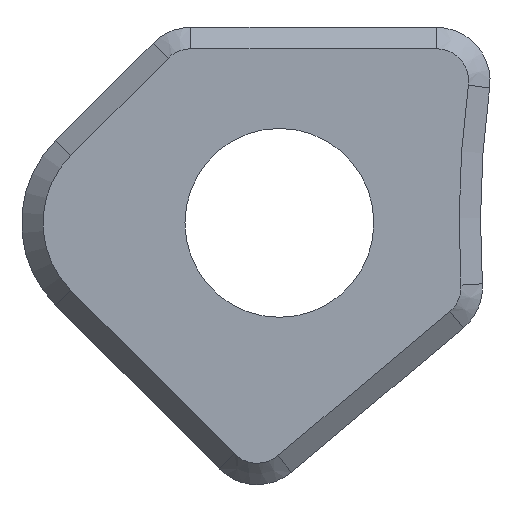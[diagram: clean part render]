
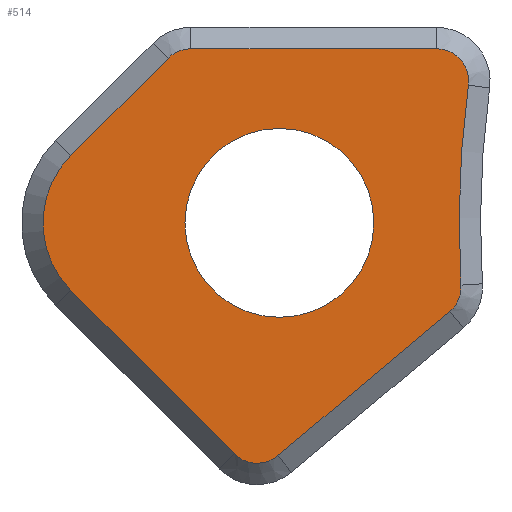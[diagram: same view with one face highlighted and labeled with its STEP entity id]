
A CAD part, front view. The second image highlights one B-rep face of the part: STEP entity #514.
In plain terms, the highlighted planar face has unit normal (0, -1, 0).
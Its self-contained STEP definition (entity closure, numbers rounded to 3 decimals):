
#15=FACE_BOUND('',#87,.T.);
#30=PLANE('',#564);
#53=FACE_OUTER_BOUND('',#86,.T.);
#86=EDGE_LOOP('',(#401,#402,#403,#404,#405,#406,#407,#408,#409,#410));
#87=EDGE_LOOP('',(#411));
#107=CIRCLE('',#536,0.6);
#108=CIRCLE('',#539,0.6);
#110=CIRCLE('',#542,19.267);
#112=CIRCLE('',#545,0.6);
#115=CIRCLE('',#550,0.6);
#117=CIRCLE('',#554,1.783);
#121=CIRCLE('',#565,1.767);
#134=LINE('',#772,#181);
#140=LINE('',#796,#187);
#144=LINE('',#808,#191);
#149=LINE('',#820,#196);
#181=VECTOR('',#605,10.);
#187=VECTOR('',#631,10.);
#191=VECTOR('',#643,10.);
#196=VECTOR('',#656,10.);
#226=VERTEX_POINT('',#762);
#229=VERTEX_POINT('',#767);
#230=VERTEX_POINT('',#771);
#232=VERTEX_POINT('',#777);
#234=VERTEX_POINT('',#783);
#236=VERTEX_POINT('',#789);
#238=VERTEX_POINT('',#795);
#240=VERTEX_POINT('',#801);
#242=VERTEX_POINT('',#807);
#244=VERTEX_POINT('',#813);
#252=VERTEX_POINT('',#844);
#271=EDGE_CURVE('',#229,#226,#107,.T.);
#272=EDGE_CURVE('',#226,#230,#134,.T.);
#275=EDGE_CURVE('',#230,#232,#108,.T.);
#278=EDGE_CURVE('',#232,#234,#110,.T.);
#281=EDGE_CURVE('',#234,#236,#112,.T.);
#284=EDGE_CURVE('',#236,#238,#140,.T.);
#289=EDGE_CURVE('',#238,#240,#115,.T.);
#290=EDGE_CURVE('',#240,#242,#144,.T.);
#295=EDGE_CURVE('',#242,#244,#117,.T.);
#297=EDGE_CURVE('',#244,#229,#149,.T.);
#309=EDGE_CURVE('',#252,#252,#121,.T.);
#401=ORIENTED_EDGE('',*,*,#271,.F.);
#402=ORIENTED_EDGE('',*,*,#297,.F.);
#403=ORIENTED_EDGE('',*,*,#295,.F.);
#404=ORIENTED_EDGE('',*,*,#290,.F.);
#405=ORIENTED_EDGE('',*,*,#289,.F.);
#406=ORIENTED_EDGE('',*,*,#284,.F.);
#407=ORIENTED_EDGE('',*,*,#281,.F.);
#408=ORIENTED_EDGE('',*,*,#278,.F.);
#409=ORIENTED_EDGE('',*,*,#275,.F.);
#410=ORIENTED_EDGE('',*,*,#272,.F.);
#411=ORIENTED_EDGE('',*,*,#309,.T.);
#514=ADVANCED_FACE('',(#53,#15),#30,.F.);
#536=AXIS2_PLACEMENT_3D('',#769,#601,#602);
#539=AXIS2_PLACEMENT_3D('',#778,#610,#611);
#542=AXIS2_PLACEMENT_3D('',#784,#617,#618);
#545=AXIS2_PLACEMENT_3D('',#790,#624,#625);
#550=AXIS2_PLACEMENT_3D('',#805,#639,#640);
#554=AXIS2_PLACEMENT_3D('',#817,#651,#652);
#564=AXIS2_PLACEMENT_3D('',#843,#681,#682);
#565=AXIS2_PLACEMENT_3D('',#845,#683,#684);
#601=DIRECTION('center_axis',(0.,1.,0.));
#602=DIRECTION('ref_axis',(-0.383,0.,0.924));
#605=DIRECTION('',(1.,0.,0.));
#610=DIRECTION('center_axis',(0.,1.,0.));
#611=DIRECTION('ref_axis',(0.753,0.,0.658));
#617=DIRECTION('center_axis',(0.,-1.,0.));
#618=DIRECTION('ref_axis',(-1.,0.,0.));
#624=DIRECTION('center_axis',(0.,1.,0.));
#625=DIRECTION('ref_axis',(0.919,0.,-0.395));
#631=DIRECTION('',(-0.766,0.,-0.643));
#639=DIRECTION('center_axis',(0.,1.,0.));
#640=DIRECTION('ref_axis',(-0.044,0.,-0.999));
#643=DIRECTION('',(-0.707,0.,0.707));
#651=DIRECTION('center_axis',(0.,1.,0.));
#652=DIRECTION('ref_axis',(-0.707,0.,-0.707));
#656=DIRECTION('',(0.707,0.,0.707));
#681=DIRECTION('center_axis',(0.,1.,0.));
#682=DIRECTION('ref_axis',(-1.,0.,0.));
#683=DIRECTION('center_axis',(0.,1.,0.));
#684=DIRECTION('ref_axis',(-1.,0.,0.));
#762=CARTESIAN_POINT('',(7.041,62.406,21.186));
#767=CARTESIAN_POINT('',(6.617,62.406,21.01));
#769=CARTESIAN_POINT('Origin',(7.041,62.406,20.586));
#771=CARTESIAN_POINT('',(11.638,62.406,21.186));
#772=CARTESIAN_POINT('',(24.242,62.406,21.186));
#777=CARTESIAN_POINT('',(12.232,62.406,20.506));
#778=CARTESIAN_POINT('Origin',(11.638,62.406,20.586));
#783=CARTESIAN_POINT('',(12.095,62.406,16.766));
#784=CARTESIAN_POINT('Origin',(31.326,62.406,17.93));
#789=CARTESIAN_POINT('',(11.881,62.406,16.27));
#790=CARTESIAN_POINT('Origin',(11.496,62.406,16.73));
#795=CARTESIAN_POINT('',(8.668,62.406,13.574));
#796=CARTESIAN_POINT('',(17.545,62.406,21.023));
#801=CARTESIAN_POINT('',(7.858,62.406,13.609));
#805=CARTESIAN_POINT('Origin',(8.282,62.406,14.033));
#807=CARTESIAN_POINT('',(4.798,62.406,16.669));
#808=CARTESIAN_POINT('',(12.063,62.406,9.404));
#813=CARTESIAN_POINT('',(4.798,62.406,19.191));
#817=CARTESIAN_POINT('Origin',(6.059,62.406,17.93));
#820=CARTESIAN_POINT('',(15.985,62.406,30.378));
#843=CARTESIAN_POINT('Origin',(35.922,62.406,18.733));
#844=CARTESIAN_POINT('',(10.465,62.406,17.93));
#845=CARTESIAN_POINT('Origin',(8.699,62.406,17.93));
